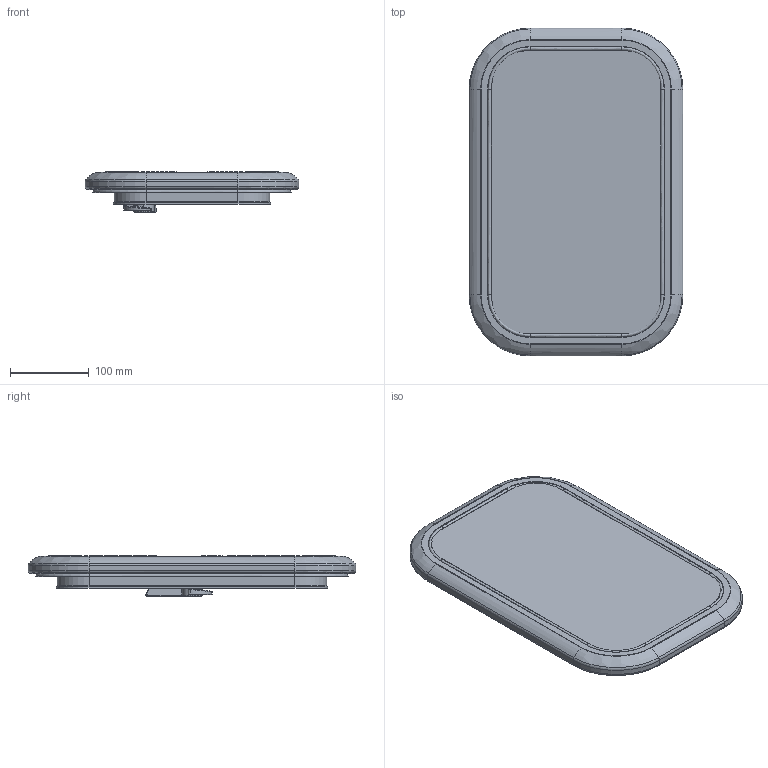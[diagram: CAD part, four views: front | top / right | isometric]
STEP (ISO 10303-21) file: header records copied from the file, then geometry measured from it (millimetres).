
FILE_DESCRIPTION((''),'2;1');
FILE_NAME('LEWMAR-HATCH-LOWPRO-20_ASM','2008-02-04T',('skennedy'),(''),'PRO/ENGINEER BY PARAMETRIC TECHNOLOGY CORPORATION, 2007030','PRO/ENGINEER BY PARAMETRIC TECHNOLOGY CORPORATION, 2007030','');
FILE_SCHEMA(('CONFIG_CONTROL_DESIGN'));
Length unit declared in the file: millimetre
Products named in the file (4): FRAME_20; 3592053X; SMALL_HANDLE_LHS; LEWMAR-HATCH-LOWPRO-20_ASM
Assembly tree (3 placements, depth 2):
  LEWMAR-HATCH-LOWPRO-20_ASM
    FRAME_20
    3592053X
    SMALL_HANDLE_LHS
Bounding box: 272 x 417 x 50.99 mm (x, y, z)
Volume: 1534094.4 mm3; surface area: 393698.6 mm2
Topology: 4 solids, 4 shells, 438 faces, 973 edges, 558 vertices
Faces by surface type: bspline 245, plane 99, cylinder 66, cone 14, torus 8, sphere 6
Entity records: 19748 total; most frequent: CARTESIAN_POINT 11150, ORIENTED_EDGE 1946, DIRECTION 1392, EDGE_CURVE 973, VERTEX_POINT 558, AXIS2_PLACEMENT_3D 494, EDGE_LOOP 455, FACE_OUTER_BOUND 438
